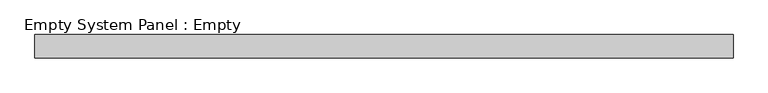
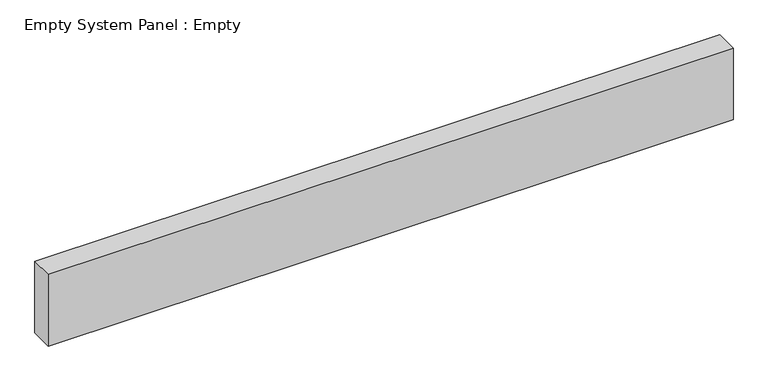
"""IFC4 building model written with IfcOpenShell, lengths in millimetres: plate geometry, Empty System Panel : Empty."""

from ifc_helpers import new_model, si_unit, origin, origin_with_axes, place, context, project, spatial, polyline, outline, extrude, source, transform, mapped, element, save


def empty_system_panel_empty_d99c1c9e(model_context):
    return source(origin(), model_context, "Body", "SweptSolid", [
        extrude(outline(polyline([(1500.0, -50.0), (-1500.0, -50.0), (-1500.0, 50.0), (1500.0, 50.0), (1500.0, -50.0)])), origin_with_axes(), (0.0, 0.0, 1.0), 332.117749),
    ])


if __name__ == "__main__":
    model = new_model("IFC4")
    model_context = context("Model", 3, world=origin())
    ifc_project = project(units=[si_unit("LENGTHUNIT", "METRE", prefix="MILLI")], contexts=[model_context])
    site = spatial("IfcSite", under=ifc_project)
    building = spatial("IfcBuilding", under=site)
    placement = place(None, origin())
    empty_system_panel_empty_shape = empty_system_panel_empty_d99c1c9e(model_context)
    element("IfcPlate", 1, ObjectType="Empty System Panel : Empty", at=placement, inside=building, context=model_context, shape_type="MappedRepresentation", body=[
        mapped(empty_system_panel_empty_shape, transform((0.0, 0.0, 0.0), x_axis=(1.0, 0.0, 0.0), y_axis=(0.0, 1.0, 0.0), z_axis=(0.0, 0.0, 1.0))),
    ])
    save(model, "model.ifc")
